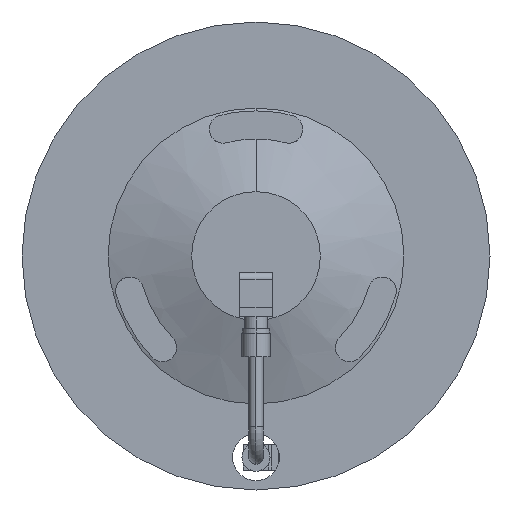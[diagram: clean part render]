
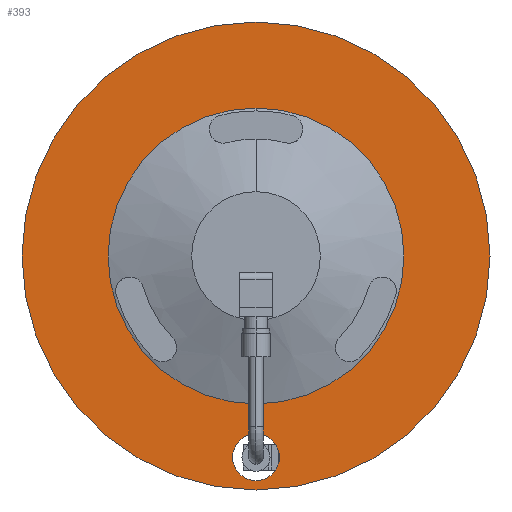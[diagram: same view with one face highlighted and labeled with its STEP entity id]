
A CAD part, front view. The second image highlights one B-rep face of the part: STEP entity #393.
In plain terms, the highlighted planar face has unit normal (0, -1, 0).
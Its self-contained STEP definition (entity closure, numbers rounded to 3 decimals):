
#393 = ADVANCED_FACE ( 'NONE', ( #4427, #7282, #8110 ), #2450, .T. ) ;
#803 = AXIS2_PLACEMENT_3D ( 'NONE', #5580, #6790, #12485 ) ;
#924 = EDGE_CURVE ( 'NONE', #9139, #9625, #10782, .T. ) ;
#981 = AXIS2_PLACEMENT_3D ( 'NONE', #7644, #3008, #2000 ) ;
#1431 = EDGE_CURVE ( 'NONE', #11655, #10611, #5856, .T. ) ;
#1599 = AXIS2_PLACEMENT_3D ( 'NONE', #2865, #6743, #5857 ) ;
#1655 = AXIS2_PLACEMENT_3D ( 'NONE', #6646, #9419, #10251 ) ;
#1956 = EDGE_CURVE ( 'NONE', #10611, #11655, #3091, .T. ) ;
#2000 = DIRECTION ( 'NONE',  ( 0., 0., -1. ) ) ;
#2450 = PLANE ( 'NONE',  #11707 ) ;
#2865 = CARTESIAN_POINT ( 'NONE',  ( 0., -129.3, 0. ) ) ;
#2877 = VERTEX_POINT ( 'NONE', #9629 ) ;
#2997 = ORIENTED_EDGE ( 'NONE', *, *, #9621, .F. ) ;
#3008 = DIRECTION ( 'NONE',  ( 0., -1., 0. ) ) ;
#3082 = DIRECTION ( 'NONE',  ( 0., -1., 0. ) ) ;
#3091 = CIRCLE ( 'NONE', #12392, 63.217 ) ;
#3252 = CIRCLE ( 'NONE', #803, 100. ) ;
#3304 = EDGE_LOOP ( 'NONE', ( #9158, #2997 ) ) ;
#3332 = EDGE_CURVE ( 'NONE', #9625, #9139, #10175, .T. ) ;
#3640 = CARTESIAN_POINT ( 'NONE',  ( 0., -129.3, -76. ) ) ;
#3687 = AXIS2_PLACEMENT_3D ( 'NONE', #8664, #3082, #9677 ) ;
#3863 = EDGE_LOOP ( 'NONE', ( #4769, #7747 ) ) ;
#4312 = DIRECTION ( 'NONE',  ( 0., -1., 0. ) ) ;
#4427 = FACE_BOUND ( 'NONE', #3863, .T. ) ;
#4460 = EDGE_CURVE ( 'NONE', #2877, #11680, #3252, .T. ) ;
#4769 = ORIENTED_EDGE ( 'NONE', *, *, #924, .F. ) ;
#5580 = CARTESIAN_POINT ( 'NONE',  ( 0., -129.3, 0. ) ) ;
#5856 = CIRCLE ( 'NONE', #981, 63.217 ) ;
#5857 = DIRECTION ( 'NONE',  ( 0., 0., 1. ) ) ;
#6456 = DIRECTION ( 'NONE',  ( 0., 0., -1. ) ) ;
#6546 = CARTESIAN_POINT ( 'NONE',  ( 0., -129.3, -100. ) ) ;
#6646 = CARTESIAN_POINT ( 'NONE',  ( 0., -129.3, -86. ) ) ;
#6743 = DIRECTION ( 'NONE',  ( 0., 1., 0. ) ) ;
#6790 = DIRECTION ( 'NONE',  ( 0., 1., 0. ) ) ;
#7282 = FACE_BOUND ( 'NONE', #10853, .T. ) ;
#7452 = ORIENTED_EDGE ( 'NONE', *, *, #1431, .F. ) ;
#7485 = CARTESIAN_POINT ( 'NONE',  ( 0., -129.3, 63.217 ) ) ;
#7644 = CARTESIAN_POINT ( 'NONE',  ( 0., -129.3, 0. ) ) ;
#7747 = ORIENTED_EDGE ( 'NONE', *, *, #3332, .F. ) ;
#8110 = FACE_OUTER_BOUND ( 'NONE', #3304, .T. ) ;
#8664 = CARTESIAN_POINT ( 'NONE',  ( 0., -129.3, -86. ) ) ;
#8959 = DIRECTION ( 'NONE',  ( 0., -1., 0. ) ) ;
#9117 = CARTESIAN_POINT ( 'NONE',  ( -100., -129.3, 0. ) ) ;
#9139 = VERTEX_POINT ( 'NONE', #3640 ) ;
#9158 = ORIENTED_EDGE ( 'NONE', *, *, #4460, .F. ) ;
#9379 = CARTESIAN_POINT ( 'NONE',  ( 0., -129.3, -63.217 ) ) ;
#9419 = DIRECTION ( 'NONE',  ( 0., -1., 0. ) ) ;
#9621 = EDGE_CURVE ( 'NONE', #11680, #2877, #10100, .T. ) ;
#9625 = VERTEX_POINT ( 'NONE', #11613 ) ;
#9629 = CARTESIAN_POINT ( 'NONE',  ( 0., -129.3, 100. ) ) ;
#9677 = DIRECTION ( 'NONE',  ( 0., 0., -1. ) ) ;
#10017 = ORIENTED_EDGE ( 'NONE', *, *, #1956, .F. ) ;
#10100 = CIRCLE ( 'NONE', #1599, 100. ) ;
#10175 = CIRCLE ( 'NONE', #3687, 10. ) ;
#10251 = DIRECTION ( 'NONE',  ( 0., 0., -1. ) ) ;
#10611 = VERTEX_POINT ( 'NONE', #9379 ) ;
#10736 = DIRECTION ( 'NONE',  ( 0., 0., -1. ) ) ;
#10782 = CIRCLE ( 'NONE', #1655, 10. ) ;
#10853 = EDGE_LOOP ( 'NONE', ( #7452, #10017 ) ) ;
#10866 = CARTESIAN_POINT ( 'NONE',  ( 0., -129.3, 0. ) ) ;
#11613 = CARTESIAN_POINT ( 'NONE',  ( 0., -129.3, -96. ) ) ;
#11655 = VERTEX_POINT ( 'NONE', #7485 ) ;
#11680 = VERTEX_POINT ( 'NONE', #6546 ) ;
#11707 = AXIS2_PLACEMENT_3D ( 'NONE', #9117, #4312, #6456 ) ;
#12392 = AXIS2_PLACEMENT_3D ( 'NONE', #10866, #8959, #10736 ) ;
#12485 = DIRECTION ( 'NONE',  ( 0., 0., 1. ) ) ;
